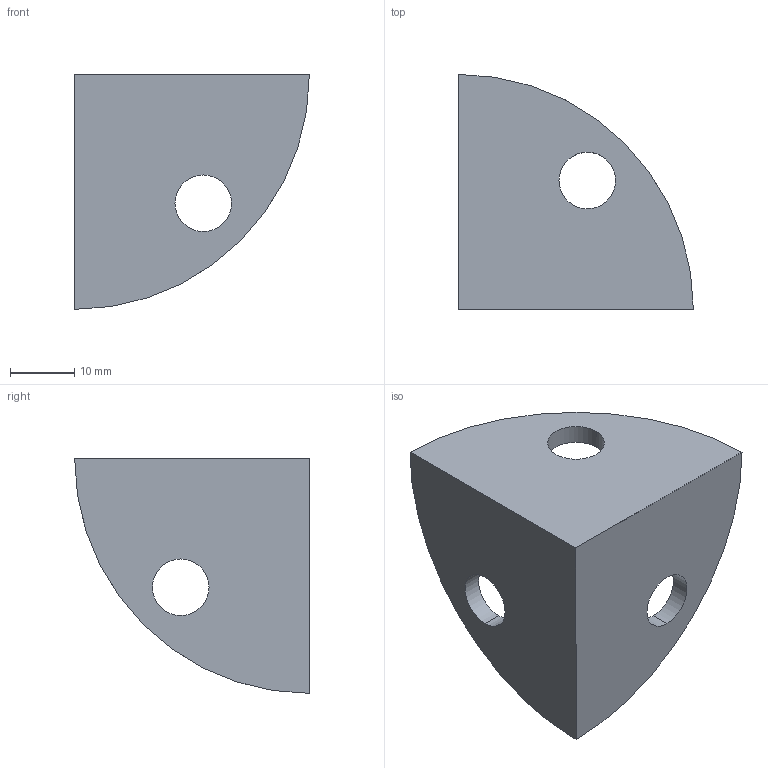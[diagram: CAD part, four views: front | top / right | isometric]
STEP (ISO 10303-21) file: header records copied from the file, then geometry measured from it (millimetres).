
FILE_DESCRIPTION (( 'STEP AP203' ), '1' );
FILE_NAME ('WTC0840.STEP', '2024-02-19T06:34:40', ( '' ), ( '' ), 'SwSTEP 2.0', 'SolidWorks 2022', '' );
FILE_SCHEMA (( 'CONFIG_CONTROL_DESIGN' ));
Length unit declared in the file: millimetre
Products named in the file (1): WTC0840
Bounding box: 36.5 x 36.5 x 36.5 mm (x, y, z)
Volume: 9076.1 mm3; surface area: 6266.8 mm2
Topology: 1 solids, 1 shells, 135 faces, 337 edges, 203 vertices
Faces by surface type: cylinder 44, torus 34, plane 31, sphere 14, bspline 12
Entity records: 4483 total; most frequent: CARTESIAN_POINT 1274, DIRECTION 685, ORIENTED_EDGE 656, EDGE_CURVE 328, AXIS2_PLACEMENT_3D 298, VERTEX_POINT 199, CIRCLE 174, EDGE_LOOP 145
